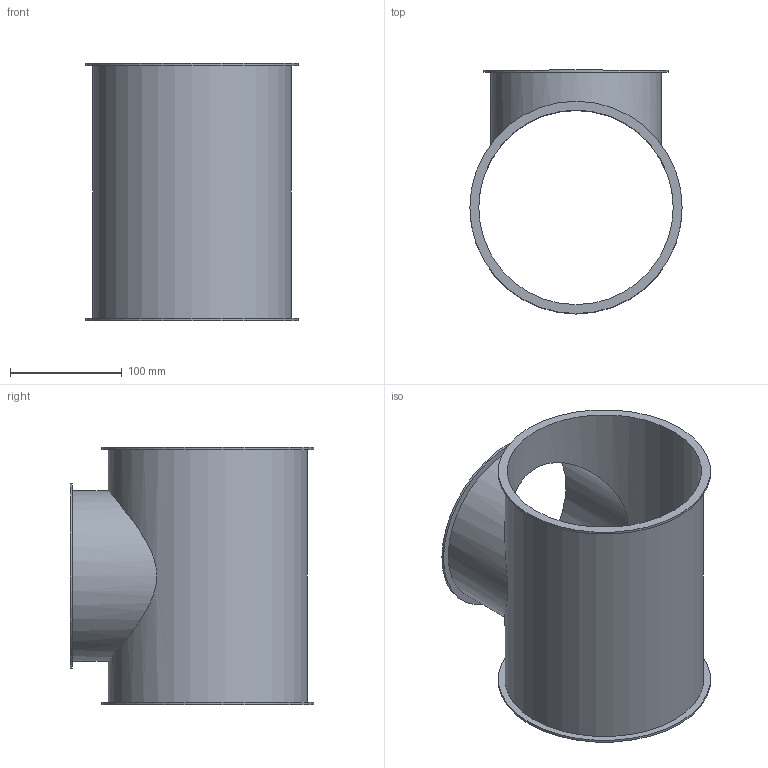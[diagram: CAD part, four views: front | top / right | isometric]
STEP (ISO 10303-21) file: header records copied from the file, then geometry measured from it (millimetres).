
FILE_DESCRIPTION((''),'2;1');
FILE_NAME('U:\Wolfgang\Marcel-3D\fertig\Kapitel 4\1721039.stp','2011-04-21T08:26:11',('TK1'),(''),'Autodesk Inventor 2010','Autodesk Inventor 2010','');
FILE_SCHEMA(('AUTOMOTIVE_DESIGN { 1 0 10303 214 1 1 1 1 }'));
Length unit declared in the file: millimetre
Products named in the file (1): 1721039
Bounding box: 190 x 218 x 230 mm (x, y, z)
Volume: 284883.5 mm3; surface area: 288755 mm2
Topology: 1 solids, 1 shells, 13 faces, 23 edges, 16 vertices
Faces by surface type: cylinder 7, plane 6
Full cylindrical faces by diameter (mm): 149 x1, 153 x1, 165 x1, 174 x1, 178 x1, 190 x2
Entity records: 432 total; most frequent: CARTESIAN_POINT 172, DIRECTION 52, ORIENTED_EDGE 28, EDGE_LOOP 28, AXIS2_PLACEMENT_3D 26, FACE_BOUND 15, VERTEX_POINT 14, EDGE_CURVE 14
